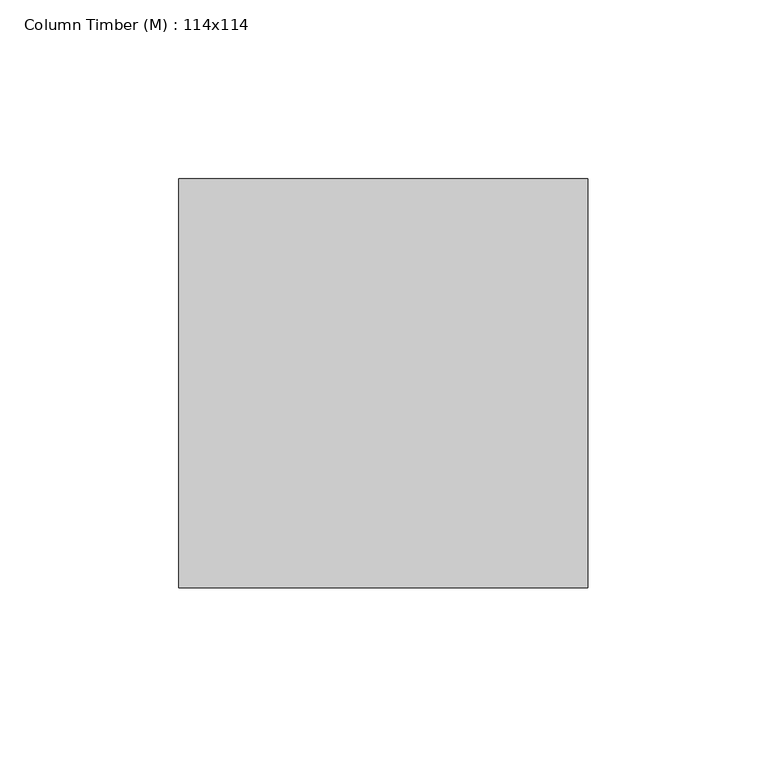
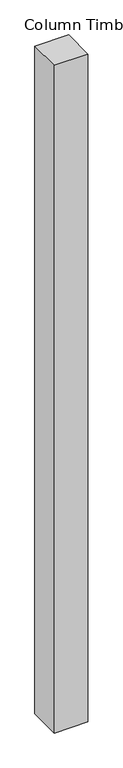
"""IFC4 building model written with IfcOpenShell, lengths in millimetres: column geometry, Column Timber (M) : 114x114."""

from ifc_helpers import new_model, si_unit, frame, origin, place, context, project, spatial, polyline, outline, extrude, source, transform, mapped, element, save


def column_timber_m_114x114_3b5997c2(model_context):
    return source(origin(), model_context, "Body", "SweptSolid", [
        extrude(outline(polyline([(57.15, 57.15), (57.15, -57.15), (-57.15, -57.15), (-57.15, 57.15), (57.15, 57.15)])), frame((0.0, 0.0, 2800.0), z_axis=(0.0, 0.0, 1.0), x_axis=(1.0, 0.0, 0.0)), (0.0, 0.0, 1.0), 2400.0),
    ])


if __name__ == "__main__":
    model = new_model("IFC4")
    model_context = context("Model", 3, world=origin())
    ifc_project = project(units=[si_unit("LENGTHUNIT", "METRE", prefix="MILLI")], contexts=[model_context])
    site = spatial("IfcSite", under=ifc_project)
    building = spatial("IfcBuilding", under=site)
    placement = place(None, origin())
    column_timber_m_114x114_shape = column_timber_m_114x114_3b5997c2(model_context)
    element("IfcColumn", 1, ObjectType="Column Timber (M) : 114x114", at=placement, inside=building, context=model_context, shape_type="MappedRepresentation", body=[
        mapped(column_timber_m_114x114_shape, transform((0.0, 0.0, 0.0), x_axis=(1.0, 0.0, 0.0), y_axis=(0.0, 1.0, 0.0), z_axis=(0.0, 0.0, 1.0))),
    ])
    save(model, "model.ifc")
